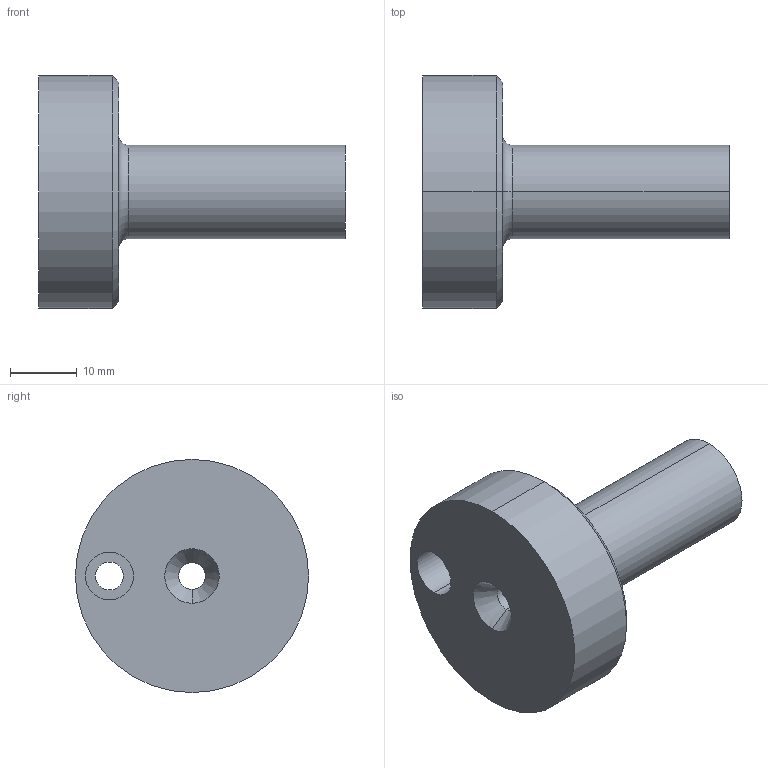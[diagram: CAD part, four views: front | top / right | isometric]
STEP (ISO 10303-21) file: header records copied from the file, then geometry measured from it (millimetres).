
FILE_DESCRIPTION (( 'STEP AP214' ), '1' );
FILE_NAME ('B1 12x46.STEP', '2019-05-22T10:39:46', ( 'August' ), ( '' ), 'SwSTEP 2.0', 'SolidWorks 2018', '' );
FILE_SCHEMA (( 'AUTOMOTIVE_DESIGN' ));
Length unit declared in the file: millimetre
Products named in the file (1): B1 12x46
Bounding box: 46 x 35 x 35 mm (x, y, z)
Volume: 15308.3 mm3; surface area: 5546.3 mm2
Topology: 1 solids, 1 shells, 20 faces, 42 edges, 26 vertices
Faces by surface type: cylinder 8, cone 6, plane 4, torus 2
Entity records: 588 total; most frequent: DIRECTION 112, CARTESIAN_POINT 89, ORIENTED_EDGE 84, AXIS2_PLACEMENT_3D 49, EDGE_CURVE 42, CIRCLE 28, VERTEX_POINT 26, EDGE_LOOP 26
